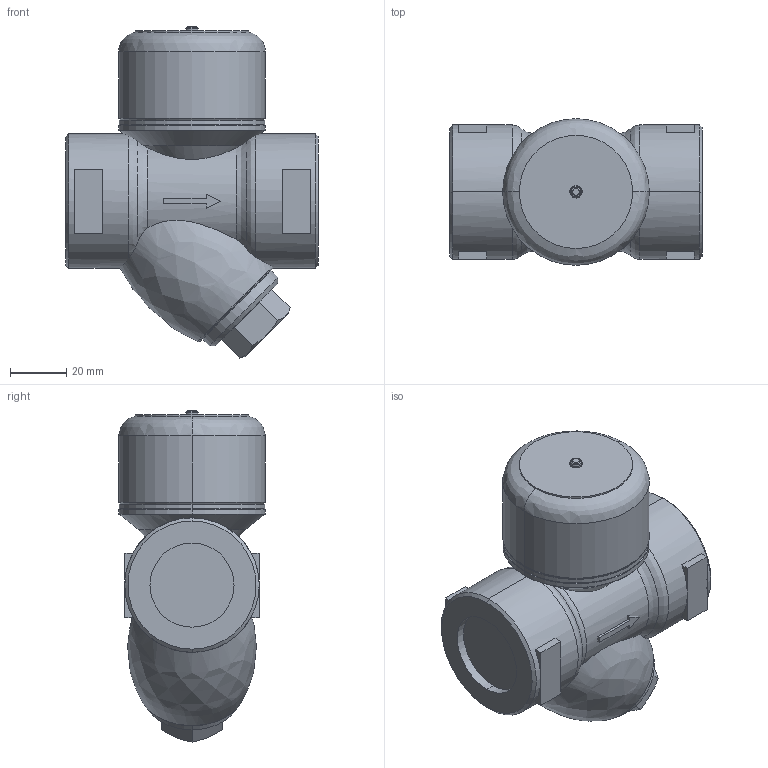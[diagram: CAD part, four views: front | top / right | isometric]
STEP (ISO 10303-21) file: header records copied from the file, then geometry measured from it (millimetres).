
FILE_DESCRIPTION( (''), '2;1');
FILE_NAME ('PC1027.12188.TD-10NA 25A_23205.stp','2025-07-31T18:12:33',(''),(''),'spGate 20.6.3 (****-****-****-****)','','');
FILE_SCHEMA (('AUTOMOTIVE_DESIGN'));
Length unit declared in the file: millimetre
Bounding box: 90 x 52.31 x 118.5 mm (x, y, z)
Volume: 274253.6 mm3; surface area: 29459.8 mm2
Topology: 1 solids, 1 shells, 124 faces, 296 edges, 187 vertices
Faces by surface type: plane 61, bspline 43, cylinder 20
Entity records: 6592 total; most frequent: CARTESIAN_POINT 1610, ORIENTED_EDGE 592, DIRECTION 460, COLOUR_RGB 421, PRESENTATION_STYLE_ASSIGNMENT 421, STYLED_ITEM 421, EDGE_CURVE 296, DRAUGHTING_PRE_DEFINED_CURVE_FONT 296
